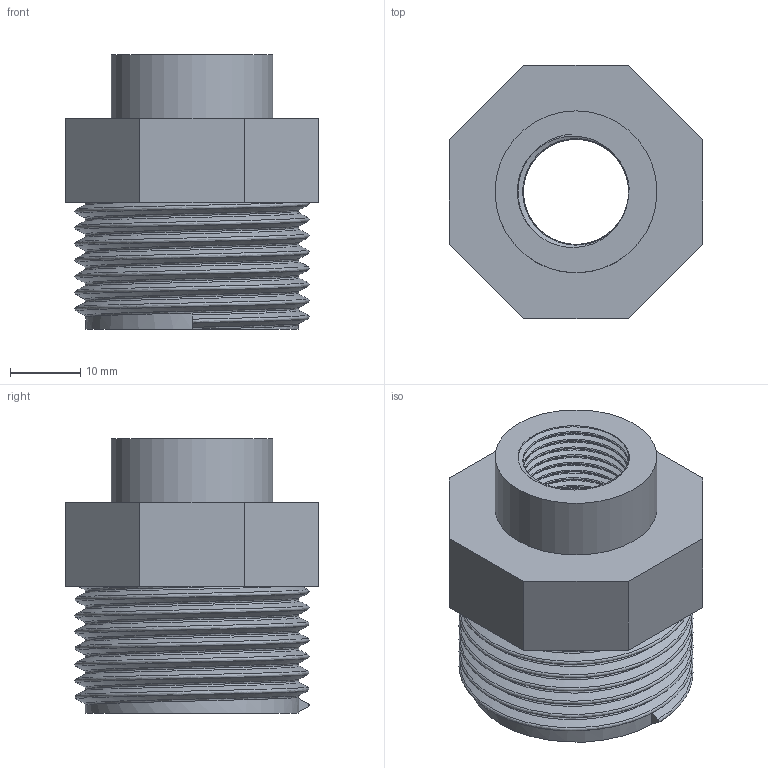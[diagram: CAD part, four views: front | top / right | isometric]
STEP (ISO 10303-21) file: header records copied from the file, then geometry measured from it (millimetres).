
FILE_DESCRIPTION(/* description */ ('PVC riduzione filettata BSP maschio-femmina'),/* implementation_level */ '2;1');
FILE_NAME(/* name */ 'C:\Users\POLYPIPE\Desktop\DATASET INVENTOR\LIBRERIA EFFAST\RACCORDI 3DxWEB\RER\3D_RERRIE\3D_RERRIE032A.stp',/* time_stamp */ '2018-01-19T17:01:23+01:00',/* author */ ('POLYPIPE'),/* organization */ ('Polypipe Italia'),/* preprocessor_version */ 'ST-DEVELOPER v16.1',/* originating_system */ 'Autodesk Inventor 2016',/* authorisation */ '');
FILE_SCHEMA (('CONFIG_CONTROL_DESIGN'));
Length unit declared in the file: millimetre
Products named in the file (1): 3D_RERRIE032A
Bounding box: 36 x 36 x 39 mm (x, y, z)
Volume: 17808.2 mm3; surface area: 9660.1 mm2
Topology: 1 solids, 1 shells, 29 faces, 68 edges, 44 vertices
Faces by surface type: plane 15, bspline 10, cylinder 4
Full cylindrical faces by diameter (mm): 14.95 x1, 23 x1, 23.8 x1, 30.291 x1
Entity records: 7152 total; most frequent: CARTESIAN_POINT 6537, ORIENTED_EDGE 128, DIRECTION 94, EDGE_CURVE 64, VERTEX_POINT 43, EDGE_LOOP 37, AXIS2_PLACEMENT_3D 32, LINE 30
